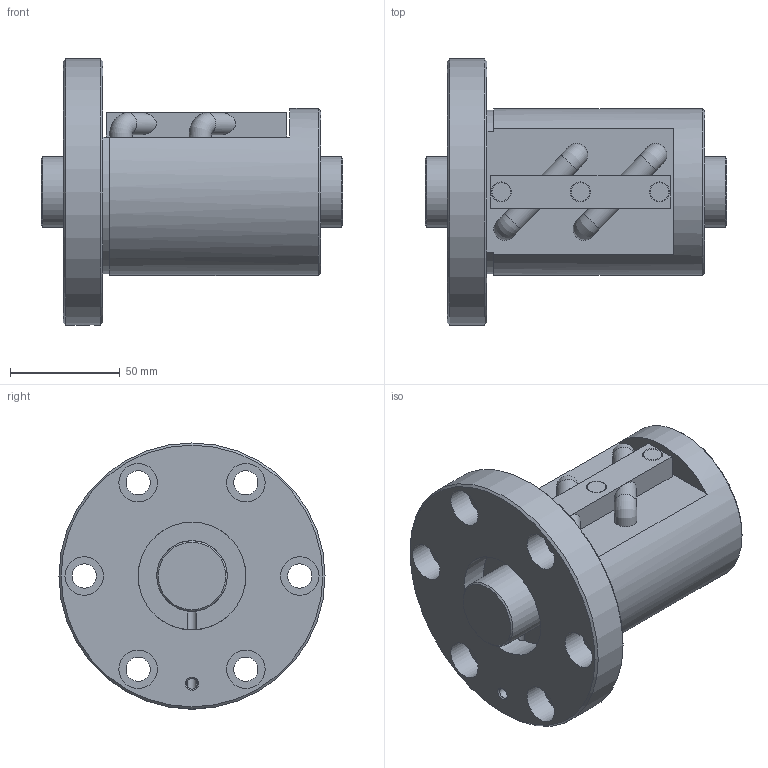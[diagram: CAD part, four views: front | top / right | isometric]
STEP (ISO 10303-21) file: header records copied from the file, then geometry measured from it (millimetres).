
FILE_DESCRIPTION(/* description */ ('STEP AP203'),/* implementation_level */ '2;1');
FILE_NAME(/* name */ 'BIF3212V-5RRG0+137LC0_000',/* time_stamp */ '2024-07-15T08:23:21+02:00',/* author */ ('License CC BY-ND 4.0'),/* organization */ ('CADENAS'),/* preprocessor_version */ 'ST-DEVELOPER v19.3',/* originating_system */ 'PARTsolutions',/* authorisation */ ' ');
FILE_SCHEMA (('CONFIG_CONTROL_DESIGN'));
Length unit declared in the file: millimetre
Products named in the file (3): BIF3212V-5RRG0+137LC0_000; BIF3212V-5RR000 Shaft; BIF3212V-5RR Nut
Assembly tree (2 placements, depth 2):
  BIF3212V-5RRG0+137LC0_000
    BIF3212V-5RR000 Shaft
    BIF3212V-5RR Nut
Bounding box: 137 x 121 x 121 mm (x, y, z)
Volume: 599045.5 mm3; surface area: 89345 mm2
Topology: 2 solids, 2 shells, 89 faces, 201 edges, 128 vertices
Faces by surface type: plane 41, cylinder 36, cone 8, torus 4
Full cylindrical faces by diameter (mm): 4 x2, 4.917 x1, 8.5 x3, 9.1 x3, 10.1 x4, 11 x6, 17.5 x6, 32 x2, 49 x2, 76 x1, 121 x1
Entity records: 2400 total; most frequent: CARTESIAN_POINT 454, DIRECTION 424, ORIENTED_EDGE 298, AXIS2_PLACEMENT_3D 194, EDGE_LOOP 164, FACE_BOUND 164, EDGE_CURVE 149, VERTEX_POINT 115
